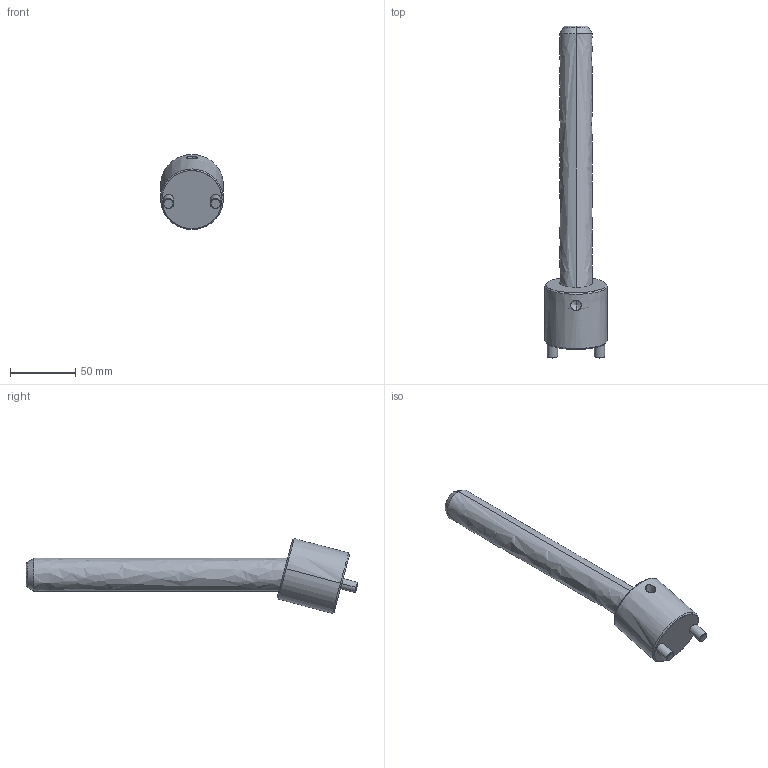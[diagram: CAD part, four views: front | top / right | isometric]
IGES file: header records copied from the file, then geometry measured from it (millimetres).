
Start section: START RECORD GO HERE.
Global section: file name: CI1525200.igs; native system: DASSAULT SYSTEMES CATIA V5 R20 - www.3ds.com; preprocessor: CATIA Version 5 Release 20 ; author: r.borello; organization: CFTORINO; date: 20190621.162108; units: millimetre
Bounding box: 48 x 254.26 x 57.49 mm (x, y, z)
Surface area: 33275.2 mm2 (no closed solid volume)
Topology: 0 solids, 0 shells, 39 faces, 162 edges, 160 vertices
Faces by surface type: revolution 32, plane 7
